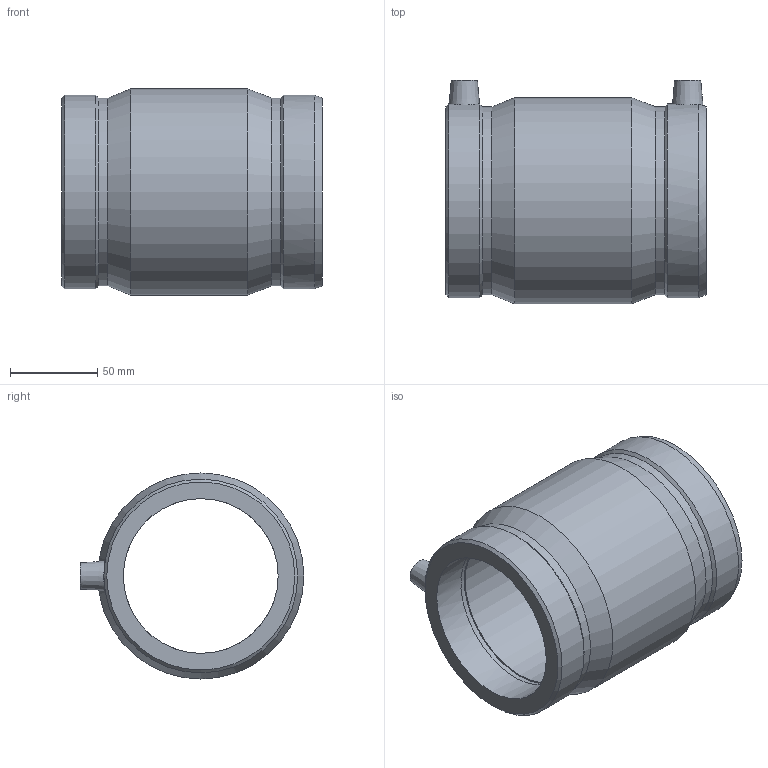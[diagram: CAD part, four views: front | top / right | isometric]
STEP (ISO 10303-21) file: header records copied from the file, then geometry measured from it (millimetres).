
FILE_DESCRIPTION(/* description */ ('PLASSON IPS COUPLER 3'''''),/* implementation_level */ '2;1');
FILE_NAME(/* name */ 'C:\Dropbox\KIMPROJECTS-Inventor 2019\99-16-3568-Processing Inch\ASTM ElectroFusion 2021\5901B\(_AS)5901B004030.ipt.stp',/* time_stamp */ '2021-08-30T09:48:32+03:00',/* author */ ('KIM'),/* organization */ (''),/* preprocessor_version */ 'ST-DEVELOPER v17.2',/* originating_system */ 'Autodesk Inventor 2019',/* authorisation */ '');
FILE_SCHEMA (('AUTOMOTIVE_DESIGN { 1 0 10303 214 3 1 1 }'));
Length unit declared in the file: inch
Products named in the file (1): *5901B004030
Bounding box: 149.1 x 128.14 x 118.11 mm (x, y, z)
Volume: 610894.5 mm3; surface area: 105364 mm2
Topology: 1 solids, 1 shells, 34 faces, 81 edges, 56 vertices
Faces by surface type: cylinder 12, cone 12, plane 10
Full cylindrical faces by diameter (mm): 4 x2, 10 x2, 88.7 x3, 107.693 x2, 111.023 x2, 118.11 x1
Entity records: 1158 total; most frequent: CARTESIAN_POINT 278, DIRECTION 192, ORIENTED_EDGE 162, AXIS2_PLACEMENT_3D 85, EDGE_CURVE 81, VERTEX_POINT 56, CIRCLE 50, EDGE_LOOP 43
